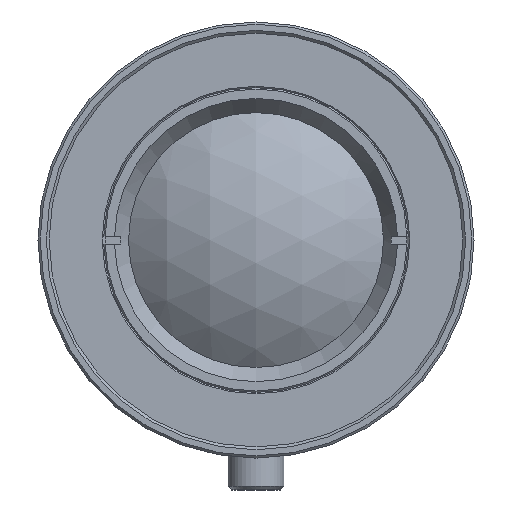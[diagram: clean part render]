
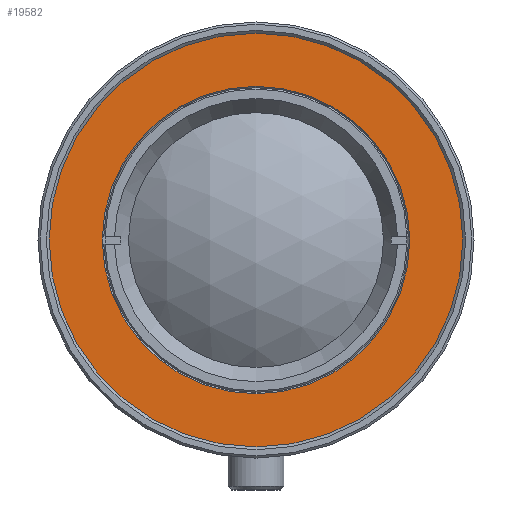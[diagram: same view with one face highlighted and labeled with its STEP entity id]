
A CAD part, front view. The second image highlights one B-rep face of the part: STEP entity #19582.
In plain terms, the highlighted planar face has unit normal (0, -1, 0).
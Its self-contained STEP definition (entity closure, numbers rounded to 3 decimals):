
#1399=CIRCLE('',#20885,13.75);
#1400=CIRCLE('',#20886,18.75);
#3902=ORIENTED_EDGE('',*,*,#6639,.F.);
#3903=ORIENTED_EDGE('',*,*,#6640,.T.);
#6639=EDGE_CURVE('',#8177,#8177,#1399,.T.);
#6640=EDGE_CURVE('',#8178,#8178,#1400,.T.);
#8177=VERTEX_POINT('',#28972);
#8178=VERTEX_POINT('',#28974);
#11056=EDGE_LOOP('',(#3902));
#11057=EDGE_LOOP('',(#3903));
#12204=FACE_BOUND('',#11056,.T.);
#12205=FACE_BOUND('',#11057,.T.);
#12875=PLANE('',#20884);
#19582=ADVANCED_FACE('',(#12204,#12205),#12875,.T.);
#20884=AXIS2_PLACEMENT_3D('',#28970,#23881,#23882);
#20885=AXIS2_PLACEMENT_3D('',#28971,#23883,#23884);
#20886=AXIS2_PLACEMENT_3D('',#28973,#23885,#23886);
#23881=DIRECTION('',(0.,-1.,0.));
#23882=DIRECTION('',(1.,0.,0.));
#23883=DIRECTION('',(0.,-1.,0.));
#23884=DIRECTION('',(1.,0.,0.));
#23885=DIRECTION('',(0.,-1.,0.));
#23886=DIRECTION('',(1.,0.,0.));
#28970=CARTESIAN_POINT('',(0.,-58.56,13.75));
#28971=CARTESIAN_POINT('',(0.,-58.56,0.));
#28972=CARTESIAN_POINT('',(13.75,-58.56,0.));
#28973=CARTESIAN_POINT('',(0.,-58.56,0.));
#28974=CARTESIAN_POINT('',(18.75,-58.56,0.));
